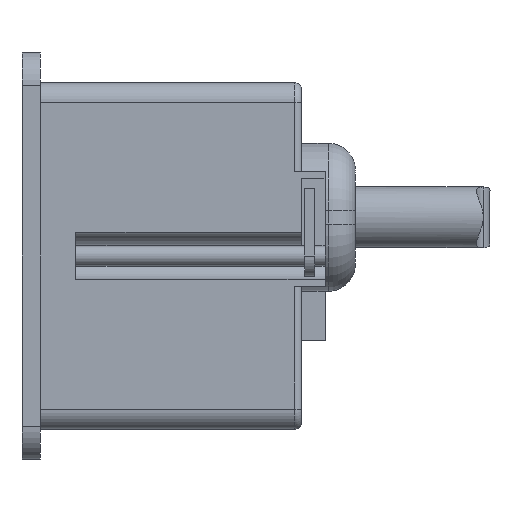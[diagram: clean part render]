
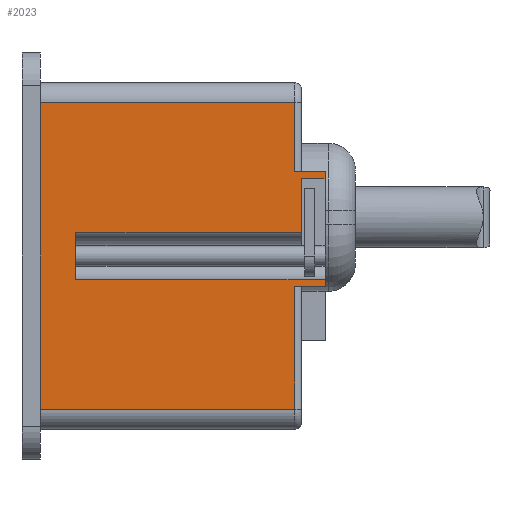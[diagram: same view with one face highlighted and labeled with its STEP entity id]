
A CAD part, left-side view. The second image highlights one B-rep face of the part: STEP entity #2023.
In plain terms, the highlighted planar face has unit normal (-1, 0, 0).
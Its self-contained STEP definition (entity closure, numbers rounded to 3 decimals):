
#22 = CARTESIAN_POINT ( 'NONE',  ( -90.35, -3.5, 11.5 ) ) ;
#181 = EDGE_CURVE ( 'NONE', #1658, #4577, #2926, .T. ) ;
#212 = EDGE_CURVE ( 'NONE', #1933, #4089, #572, .T. ) ;
#374 = DIRECTION ( 'NONE',  ( 0., 0., 1. ) ) ;
#428 = LINE ( 'NONE', #5263, #629 ) ;
#458 = DIRECTION ( 'NONE',  ( 0., 0., -1. ) ) ;
#572 = LINE ( 'NONE', #3340, #3534 ) ;
#629 = VECTOR ( 'NONE', #2866, 1000. ) ;
#769 = LINE ( 'NONE', #5010, #4335 ) ;
#836 = DIRECTION ( 'NONE',  ( 0., -1., 0. ) ) ;
#920 = DIRECTION ( 'NONE',  ( 0., 1., 0. ) ) ;
#957 = ORIENTED_EDGE ( 'NONE', *, *, #5220, .F. ) ;
#1029 = DIRECTION ( 'NONE',  ( 0., 0., -1. ) ) ;
#1160 = CARTESIAN_POINT ( 'NONE',  ( -90.35, 0., 3.5 ) ) ;
#1233 = VECTOR ( 'NONE', #1560, 1000. ) ;
#1266 = CARTESIAN_POINT ( 'NONE',  ( -90.35, -3.5, 12.5 ) ) ;
#1290 = LINE ( 'NONE', #2181, #4376 ) ;
#1309 = CARTESIAN_POINT ( 'NONE',  ( -90.35, -3.5, -4.5 ) ) ;
#1323 = CARTESIAN_POINT ( 'NONE',  ( -90.35, 0., 11.5 ) ) ;
#1376 = CARTESIAN_POINT ( 'NONE',  ( -90.35, 51.399, -3.5 ) ) ;
#1502 = VECTOR ( 'NONE', #2802, 1000. ) ;
#1505 = FACE_OUTER_BOUND ( 'NONE', #4211, .T. ) ;
#1507 = VECTOR ( 'NONE', #836, 1000. ) ;
#1550 = ORIENTED_EDGE ( 'NONE', *, *, #212, .T. ) ;
#1560 = DIRECTION ( 'NONE',  ( 0., 0., -1. ) ) ;
#1576 = VERTEX_POINT ( 'NONE', #1266 ) ;
#1621 = EDGE_CURVE ( 'NONE', #4909, #3207, #1990, .T. ) ;
#1658 = VERTEX_POINT ( 'NONE', #2464 ) ;
#1794 = LINE ( 'NONE', #4333, #1502 ) ;
#1805 = ORIENTED_EDGE ( 'NONE', *, *, #5875, .F. ) ;
#1824 = CARTESIAN_POINT ( 'NONE',  ( -90.35, 1., -22.75 ) ) ;
#1883 = EDGE_CURVE ( 'NONE', #4444, #4577, #1290, .T. ) ;
#1933 = VERTEX_POINT ( 'NONE', #3166 ) ;
#1972 = LINE ( 'NONE', #5386, #1233 ) ;
#1990 = LINE ( 'NONE', #22, #2644 ) ;
#2006 = LINE ( 'NONE', #1376, #5449 ) ;
#2008 = LINE ( 'NONE', #2847, #4991 ) ;
#2023 = ADVANCED_FACE ( 'NONE', ( #1505 ), #5455, .F. ) ;
#2070 = CARTESIAN_POINT ( 'NONE',  ( -90.35, -3.5, 11.5 ) ) ;
#2073 = ORIENTED_EDGE ( 'NONE', *, *, #2110, .T. ) ;
#2110 = EDGE_CURVE ( 'NONE', #1576, #3837, #2008, .T. ) ;
#2181 = CARTESIAN_POINT ( 'NONE',  ( -90.35, 38.8, -22.75 ) ) ;
#2215 = VECTOR ( 'NONE', #5131, 1000. ) ;
#2289 = CARTESIAN_POINT ( 'NONE',  ( -90.35, 38.8, 22.75 ) ) ;
#2314 = EDGE_CURVE ( 'NONE', #2411, #4510, #428, .T. ) ;
#2411 = VERTEX_POINT ( 'NONE', #1309 ) ;
#2464 = CARTESIAN_POINT ( 'NONE',  ( -90.35, 1., 22.75 ) ) ;
#2480 = EDGE_CURVE ( 'NONE', #2530, #2411, #1972, .T. ) ;
#2512 = DIRECTION ( 'NONE',  ( 1., 0., 0. ) ) ;
#2530 = VERTEX_POINT ( 'NONE', #4844 ) ;
#2539 = DIRECTION ( 'NONE',  ( 0., 0., 1. ) ) ;
#2609 = DIRECTION ( 'NONE',  ( 0., 0., 1. ) ) ;
#2644 = VECTOR ( 'NONE', #920, 1000. ) ;
#2802 = DIRECTION ( 'NONE',  ( 0., 0., 1. ) ) ;
#2847 = CARTESIAN_POINT ( 'NONE',  ( -90.35, -3.5, 12.5 ) ) ;
#2860 = ORIENTED_EDGE ( 'NONE', *, *, #181, .T. ) ;
#2866 = DIRECTION ( 'NONE',  ( 0., 1., 0. ) ) ;
#2872 = DIRECTION ( 'NONE',  ( 0., -1., 0. ) ) ;
#2926 = LINE ( 'NONE', #3370, #5895 ) ;
#3014 = LINE ( 'NONE', #4964, #3024 ) ;
#3024 = VECTOR ( 'NONE', #2539, 1000. ) ;
#3166 = CARTESIAN_POINT ( 'NONE',  ( -90.35, 33.5, 3.5 ) ) ;
#3207 = VERTEX_POINT ( 'NONE', #1323 ) ;
#3340 = CARTESIAN_POINT ( 'NONE',  ( -90.35, 51.399, 3.5 ) ) ;
#3370 = CARTESIAN_POINT ( 'NONE',  ( -90.35, 41.5, 22.75 ) ) ;
#3525 = CARTESIAN_POINT ( 'NONE',  ( -90.35, 41.5, 25.75 ) ) ;
#3534 = VECTOR ( 'NONE', #4394, 1000. ) ;
#3656 = AXIS2_PLACEMENT_3D ( 'NONE', #3525, #2512, #1029 ) ;
#3706 = VERTEX_POINT ( 'NONE', #4110 ) ;
#3744 = LINE ( 'NONE', #4816, #1507 ) ;
#3803 = CARTESIAN_POINT ( 'NONE',  ( -90.35, 1., -4.5 ) ) ;
#3805 = LINE ( 'NONE', #5264, #5883 ) ;
#3837 = VERTEX_POINT ( 'NONE', #5311 ) ;
#4089 = VERTEX_POINT ( 'NONE', #1160 ) ;
#4110 = CARTESIAN_POINT ( 'NONE',  ( -90.35, 33.5, -3.5 ) ) ;
#4211 = EDGE_LOOP ( 'NONE', ( #2073, #5063, #2860, #5486, #4793, #6244, #5283, #4680, #1805, #5324, #1550, #6028, #6272, #957 ) ) ;
#4249 = VERTEX_POINT ( 'NONE', #1824 ) ;
#4333 = CARTESIAN_POINT ( 'NONE',  ( -90.35, 1., -4.5 ) ) ;
#4335 = VECTOR ( 'NONE', #2609, 1000. ) ;
#4362 = DIRECTION ( 'NONE',  ( 0., 1., 0. ) ) ;
#4368 = EDGE_CURVE ( 'NONE', #4089, #3207, #769, .T. ) ;
#4376 = VECTOR ( 'NONE', #374, 1000. ) ;
#4394 = DIRECTION ( 'NONE',  ( 0., -1., 0. ) ) ;
#4444 = VERTEX_POINT ( 'NONE', #5557 ) ;
#4510 = VERTEX_POINT ( 'NONE', #3803 ) ;
#4577 = VERTEX_POINT ( 'NONE', #2289 ) ;
#4582 = CARTESIAN_POINT ( 'NONE',  ( -90.35, 33.5, 3.5 ) ) ;
#4680 = ORIENTED_EDGE ( 'NONE', *, *, #2480, .F. ) ;
#4776 = EDGE_CURVE ( 'NONE', #4249, #4510, #1794, .T. ) ;
#4793 = ORIENTED_EDGE ( 'NONE', *, *, #5197, .T. ) ;
#4798 = DIRECTION ( 'NONE',  ( 0., 1., 0. ) ) ;
#4816 = CARTESIAN_POINT ( 'NONE',  ( -90.35, 41.5, -22.75 ) ) ;
#4844 = CARTESIAN_POINT ( 'NONE',  ( -90.35, -3.5, -3.5 ) ) ;
#4909 = VERTEX_POINT ( 'NONE', #2070 ) ;
#4964 = CARTESIAN_POINT ( 'NONE',  ( -90.35, 1., 22.75 ) ) ;
#4991 = VECTOR ( 'NONE', #4798, 1000. ) ;
#5010 = CARTESIAN_POINT ( 'NONE',  ( -90.35, 0., 25.75 ) ) ;
#5063 = ORIENTED_EDGE ( 'NONE', *, *, #5365, .T. ) ;
#5131 = DIRECTION ( 'NONE',  ( 0., 0., 1. ) ) ;
#5197 = EDGE_CURVE ( 'NONE', #4444, #4249, #3744, .T. ) ;
#5220 = EDGE_CURVE ( 'NONE', #1576, #4909, #3805, .T. ) ;
#5263 = CARTESIAN_POINT ( 'NONE',  ( -90.35, -3.5, -4.5 ) ) ;
#5264 = CARTESIAN_POINT ( 'NONE',  ( -90.35, -3.5, 0. ) ) ;
#5283 = ORIENTED_EDGE ( 'NONE', *, *, #2314, .F. ) ;
#5311 = CARTESIAN_POINT ( 'NONE',  ( -90.35, 1., 12.5 ) ) ;
#5324 = ORIENTED_EDGE ( 'NONE', *, *, #5413, .T. ) ;
#5365 = EDGE_CURVE ( 'NONE', #3837, #1658, #3014, .T. ) ;
#5386 = CARTESIAN_POINT ( 'NONE',  ( -90.35, -3.5, 0. ) ) ;
#5413 = EDGE_CURVE ( 'NONE', #3706, #1933, #6026, .T. ) ;
#5449 = VECTOR ( 'NONE', #2872, 1000. ) ;
#5455 = PLANE ( 'NONE',  #3656 ) ;
#5486 = ORIENTED_EDGE ( 'NONE', *, *, #1883, .F. ) ;
#5557 = CARTESIAN_POINT ( 'NONE',  ( -90.35, 38.8, -22.75 ) ) ;
#5875 = EDGE_CURVE ( 'NONE', #3706, #2530, #2006, .T. ) ;
#5883 = VECTOR ( 'NONE', #458, 1000. ) ;
#5895 = VECTOR ( 'NONE', #4362, 1000. ) ;
#6026 = LINE ( 'NONE', #4582, #2215 ) ;
#6028 = ORIENTED_EDGE ( 'NONE', *, *, #4368, .T. ) ;
#6244 = ORIENTED_EDGE ( 'NONE', *, *, #4776, .T. ) ;
#6272 = ORIENTED_EDGE ( 'NONE', *, *, #1621, .F. ) ;
